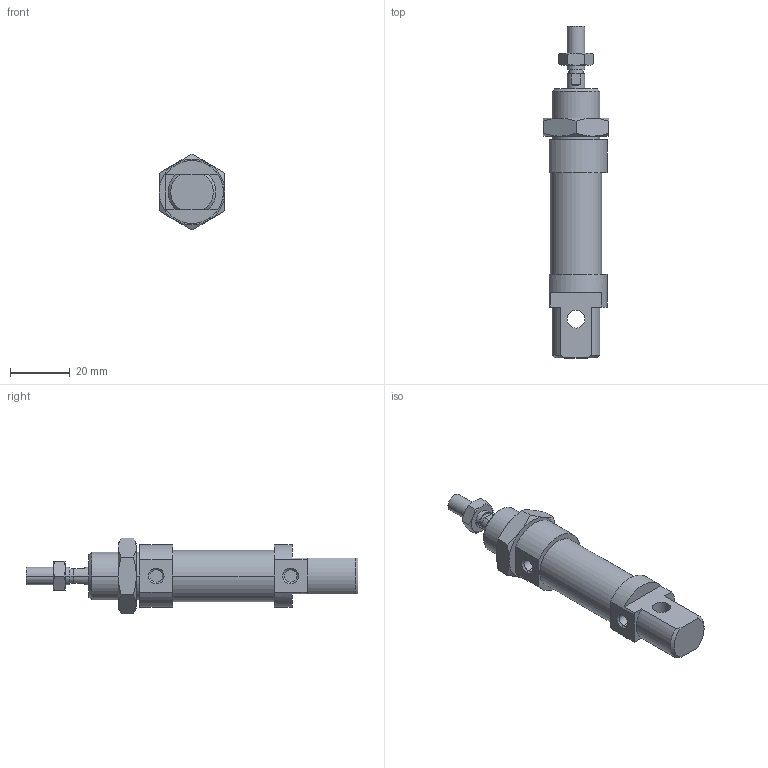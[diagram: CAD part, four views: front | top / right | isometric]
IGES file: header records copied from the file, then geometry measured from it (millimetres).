
Global section: file name: No Iges File Name specified; native system: Autodesk Inventor 2010; preprocessor: AutoDesk Inventor Iges Exporter R2010; author: rivolro1; date: 20090604.093206; units: millimetre
Bounding box: 22 x 111 x 25.4 mm (x, y, z)
Volume: 22860.9 mm3; surface area: 9046.8 mm2
Topology: 4 solids, 4 shells, 107 faces, 236 edges, 144 vertices
Faces by surface type: plane 39, cone 28, bspline 20, cylinder 14, revolution 6
